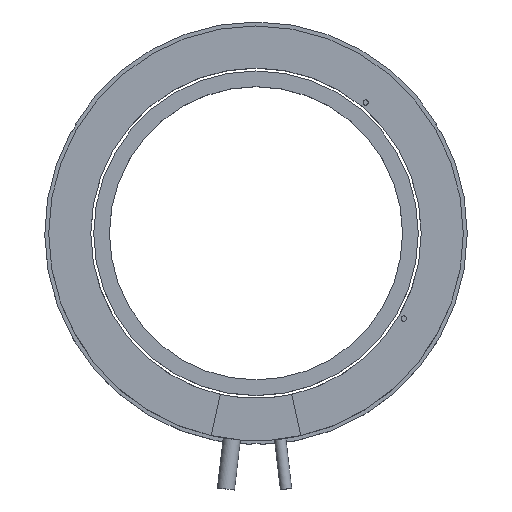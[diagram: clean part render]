
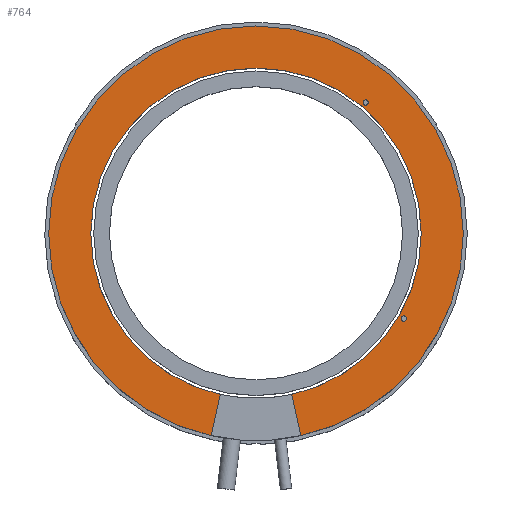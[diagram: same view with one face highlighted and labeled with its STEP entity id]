
A CAD part, top view. The second image highlights one B-rep face of the part: STEP entity #764.
In plain terms, the highlighted planar face has unit normal (0, 0, 1).
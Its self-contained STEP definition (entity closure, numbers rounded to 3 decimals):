
#32 = VERTEX_POINT ( 'NONE', #46 ) ;
#38 = CARTESIAN_POINT ( 'NONE',  ( 0., 0., 34. ) ) ;
#42 = AXIS2_PLACEMENT_3D ( 'NONE', #1081, #753, #956 ) ;
#46 = CARTESIAN_POINT ( 'NONE',  ( 16.991, -76.639, 34. ) ) ;
#62 = DIRECTION ( 'NONE',  ( 1., 0., 0. ) ) ;
#63 = EDGE_CURVE ( 'NONE', #198, #1221, #399, .T. ) ;
#78 = DIRECTION ( 'NONE',  ( 1., 0., 0. ) ) ;
#86 = DIRECTION ( 'NONE',  ( 0., 0., 1. ) ) ;
#103 = CARTESIAN_POINT ( 'NONE',  ( -78.5, 0., 34. ) ) ;
#115 = CIRCLE ( 'NONE', #575, 78.5 ) ;
#124 = ORIENTED_EDGE ( 'NONE', *, *, #754, .F. ) ;
#128 = EDGE_CURVE ( 'NONE', #32, #181, #1165, .T. ) ;
#129 = ORIENTED_EDGE ( 'NONE', *, *, #1015, .F. ) ;
#143 = EDGE_CURVE ( 'NONE', #1155, #694, #931, .T. ) ;
#145 = CIRCLE ( 'NONE', #941, 1. ) ;
#151 = EDGE_CURVE ( 'NONE', #694, #1155, #569, .T. ) ;
#168 = EDGE_LOOP ( 'NONE', ( #722, #440 ) ) ;
#181 = VERTEX_POINT ( 'NONE', #444 ) ;
#185 = VECTOR ( 'NONE', #634, 1000. ) ;
#190 = CIRCLE ( 'NONE', #1032, 62.55 ) ;
#192 = CARTESIAN_POINT ( 'NONE',  ( 13.538, -61.067, 34. ) ) ;
#198 = VERTEX_POINT ( 'NONE', #534 ) ;
#233 = EDGE_CURVE ( 'NONE', #1329, #1221, #115, .T. ) ;
#235 = EDGE_CURVE ( 'NONE', #716, #643, #959, .T. ) ;
#240 = AXIS2_PLACEMENT_3D ( 'NONE', #1277, #1492, #914 ) ;
#263 = AXIS2_PLACEMENT_3D ( 'NONE', #435, #308, #1239 ) ;
#276 = CARTESIAN_POINT ( 'NONE',  ( 56.945, -32.3, 34. ) ) ;
#279 = DIRECTION ( 'NONE',  ( 0., 0., 1. ) ) ;
#304 = CARTESIAN_POINT ( 'NONE',  ( 0., 0., 34. ) ) ;
#308 = DIRECTION ( 'NONE',  ( 0., 0., 1. ) ) ;
#317 = ORIENTED_EDGE ( 'NONE', *, *, #63, .F. ) ;
#377 = FACE_BOUND ( 'NONE', #168, .T. ) ;
#379 = AXIS2_PLACEMENT_3D ( 'NONE', #304, #86, #78 ) ;
#399 = LINE ( 'NONE', #847, #185 ) ;
#400 = CARTESIAN_POINT ( 'NONE',  ( 54.945, -32.3, 34. ) ) ;
#407 = CARTESIAN_POINT ( 'NONE',  ( 40.524, 49.486, 34. ) ) ;
#435 = CARTESIAN_POINT ( 'NONE',  ( 41.524, 49.486, 34. ) ) ;
#440 = ORIENTED_EDGE ( 'NONE', *, *, #143, .F. ) ;
#444 = CARTESIAN_POINT ( 'NONE',  ( 78.5, 0., 34. ) ) ;
#488 = VERTEX_POINT ( 'NONE', #407 ) ;
#511 = DIRECTION ( 'NONE',  ( 1., 0., 0. ) ) ;
#534 = CARTESIAN_POINT ( 'NONE',  ( -13.538, -61.067, 34. ) ) ;
#536 = ORIENTED_EDGE ( 'NONE', *, *, #1144, .T. ) ;
#547 = AXIS2_PLACEMENT_3D ( 'NONE', #733, #1185, #511 ) ;
#548 = CARTESIAN_POINT ( 'NONE',  ( 0., 0., 34. ) ) ;
#559 = ORIENTED_EDGE ( 'NONE', *, *, #235, .F. ) ;
#569 = CIRCLE ( 'NONE', #646, 1. ) ;
#575 = AXIS2_PLACEMENT_3D ( 'NONE', #548, #789, #1248 ) ;
#597 = CIRCLE ( 'NONE', #547, 78.5 ) ;
#599 = ORIENTED_EDGE ( 'NONE', *, *, #233, .T. ) ;
#605 = VERTEX_POINT ( 'NONE', #1474 ) ;
#618 = EDGE_CURVE ( 'NONE', #1042, #716, #190, .T. ) ;
#634 = DIRECTION ( 'NONE',  ( -0.216, -0.976, 0. ) ) ;
#643 = VERTEX_POINT ( 'NONE', #1353 ) ;
#644 = CARTESIAN_POINT ( 'NONE',  ( 41.524, 49.486, 34. ) ) ;
#646 = AXIS2_PLACEMENT_3D ( 'NONE', #724, #1096, #988 ) ;
#649 = ORIENTED_EDGE ( 'NONE', *, *, #1275, .F. ) ;
#650 = CARTESIAN_POINT ( 'NONE',  ( 0., 0., 34. ) ) ;
#653 = DIRECTION ( 'NONE',  ( -0.216, 0.976, 0. ) ) ;
#694 = VERTEX_POINT ( 'NONE', #276 ) ;
#698 = ORIENTED_EDGE ( 'NONE', *, *, #832, .F. ) ;
#716 = VERTEX_POINT ( 'NONE', #1085 ) ;
#722 = ORIENTED_EDGE ( 'NONE', *, *, #151, .F. ) ;
#724 = CARTESIAN_POINT ( 'NONE',  ( 55.945, -32.3, 34. ) ) ;
#733 = CARTESIAN_POINT ( 'NONE',  ( 0., 0., 34. ) ) ;
#753 = DIRECTION ( 'NONE',  ( 0., 0., 1. ) ) ;
#754 = EDGE_CURVE ( 'NONE', #488, #605, #145, .T. ) ;
#764 = ADVANCED_FACE ( 'NONE', ( #377, #1091, #837 ), #858, .T. ) ;
#770 = DIRECTION ( 'NONE',  ( 1., 0., 0. ) ) ;
#777 = AXIS2_PLACEMENT_3D ( 'NONE', #1298, #1428, #62 ) ;
#789 = DIRECTION ( 'NONE',  ( 0., 0., 1. ) ) ;
#800 = CARTESIAN_POINT ( 'NONE',  ( 13.538, -61.067, 34. ) ) ;
#832 = EDGE_CURVE ( 'NONE', #605, #488, #1122, .T. ) ;
#837 = FACE_OUTER_BOUND ( 'NONE', #926, .T. ) ;
#847 = CARTESIAN_POINT ( 'NONE',  ( -13.538, -61.067, 34. ) ) ;
#857 = CIRCLE ( 'NONE', #240, 62.55 ) ;
#858 = PLANE ( 'NONE',  #777 ) ;
#914 = DIRECTION ( 'NONE',  ( 1., 0., 0. ) ) ;
#926 = EDGE_LOOP ( 'NONE', ( #649, #1375, #536, #599, #317, #129, #559, #1369 ) ) ;
#931 = CIRCLE ( 'NONE', #42, 1. ) ;
#941 = AXIS2_PLACEMENT_3D ( 'NONE', #644, #968, #1447 ) ;
#956 = DIRECTION ( 'NONE',  ( 1., 0., 0. ) ) ;
#957 = VECTOR ( 'NONE', #653, 1000. ) ;
#959 = CIRCLE ( 'NONE', #379, 62.55 ) ;
#968 = DIRECTION ( 'NONE',  ( 0., 0., 1. ) ) ;
#988 = DIRECTION ( 'NONE',  ( 1., 0., 0. ) ) ;
#1015 = EDGE_CURVE ( 'NONE', #643, #198, #857, .T. ) ;
#1032 = AXIS2_PLACEMENT_3D ( 'NONE', #650, #1456, #770 ) ;
#1042 = VERTEX_POINT ( 'NONE', #800 ) ;
#1081 = CARTESIAN_POINT ( 'NONE',  ( 55.945, -32.3, 34. ) ) ;
#1085 = CARTESIAN_POINT ( 'NONE',  ( 62.55, 0., 34. ) ) ;
#1091 = FACE_BOUND ( 'NONE', #1483, .T. ) ;
#1096 = DIRECTION ( 'NONE',  ( 0., 0., 1. ) ) ;
#1122 = CIRCLE ( 'NONE', #263, 1. ) ;
#1144 = EDGE_CURVE ( 'NONE', #181, #1329, #597, .T. ) ;
#1155 = VERTEX_POINT ( 'NONE', #400 ) ;
#1165 = CIRCLE ( 'NONE', #1218, 78.5 ) ;
#1185 = DIRECTION ( 'NONE',  ( 0., 0., 1. ) ) ;
#1193 = DIRECTION ( 'NONE',  ( 1., 0., 0. ) ) ;
#1218 = AXIS2_PLACEMENT_3D ( 'NONE', #38, #279, #1193 ) ;
#1219 = LINE ( 'NONE', #192, #957 ) ;
#1221 = VERTEX_POINT ( 'NONE', #1362 ) ;
#1239 = DIRECTION ( 'NONE',  ( 1., 0., 0. ) ) ;
#1248 = DIRECTION ( 'NONE',  ( 1., 0., 0. ) ) ;
#1275 = EDGE_CURVE ( 'NONE', #32, #1042, #1219, .T. ) ;
#1277 = CARTESIAN_POINT ( 'NONE',  ( 0., 0., 34. ) ) ;
#1298 = CARTESIAN_POINT ( 'NONE',  ( 62.55, 0., 34. ) ) ;
#1329 = VERTEX_POINT ( 'NONE', #103 ) ;
#1353 = CARTESIAN_POINT ( 'NONE',  ( -62.55, 0., 34. ) ) ;
#1362 = CARTESIAN_POINT ( 'NONE',  ( -16.991, -76.639, 34. ) ) ;
#1369 = ORIENTED_EDGE ( 'NONE', *, *, #618, .F. ) ;
#1375 = ORIENTED_EDGE ( 'NONE', *, *, #128, .T. ) ;
#1428 = DIRECTION ( 'NONE',  ( 0., 0., 1. ) ) ;
#1447 = DIRECTION ( 'NONE',  ( 1., 0., 0. ) ) ;
#1456 = DIRECTION ( 'NONE',  ( 0., 0., 1. ) ) ;
#1474 = CARTESIAN_POINT ( 'NONE',  ( 42.524, 49.486, 34. ) ) ;
#1483 = EDGE_LOOP ( 'NONE', ( #698, #124 ) ) ;
#1492 = DIRECTION ( 'NONE',  ( 0., 0., 1. ) ) ;
